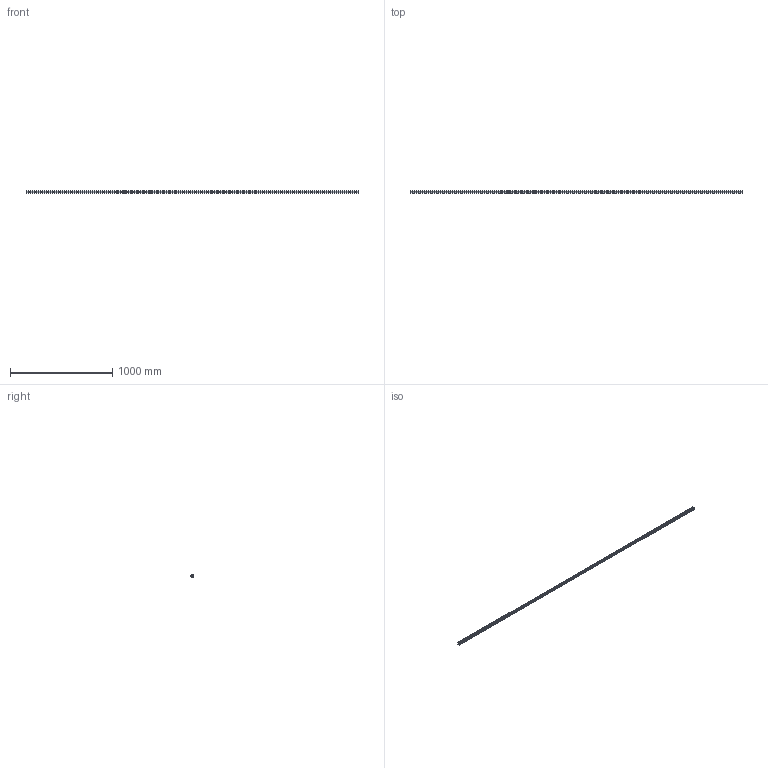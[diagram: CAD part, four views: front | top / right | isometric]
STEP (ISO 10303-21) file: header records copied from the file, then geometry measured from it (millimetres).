
FILE_DESCRIPTION (( 'STEP AP203' ), '1' );
FILE_NAME ('L1018.25R-3240.step', '2023-08-06T10:46:37', ( '' ), ( '' ), 'SwSTEP 2.0', 'SolidWorks 2019', '' );
FILE_SCHEMA (( 'CONFIG_CONTROL_DESIGN' ));
Length unit declared in the file: millimetre
Products named in the file (1): L1018.25R-3240
Bounding box: 3240 x 21.8 x 25 mm (x, y, z)
Volume: 1347477.5 mm3; surface area: 322577.2 mm2
Topology: 1 solids, 1 shells, 515 faces, 1161 edges, 648 vertices
Faces by surface type: cylinder 219, cone 216, plane 80
Entity records: 13634 total; most frequent: DIRECTION 2631, CARTESIAN_POINT 2217, ORIENTED_EDGE 2106, AXIS2_PLACEMENT_3D 1062, EDGE_CURVE 1053, VERTEX_POINT 648, EDGE_LOOP 623, CIRCLE 546
